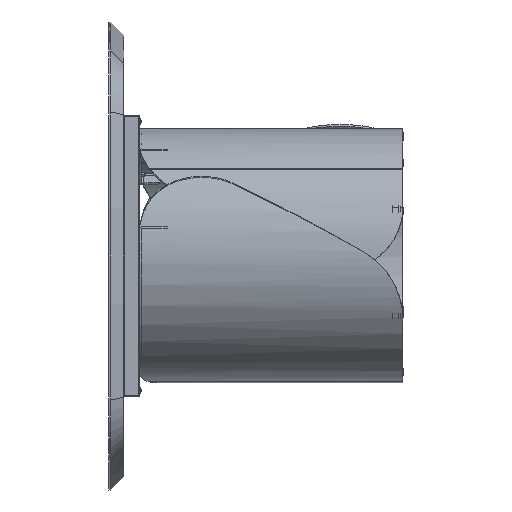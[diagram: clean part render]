
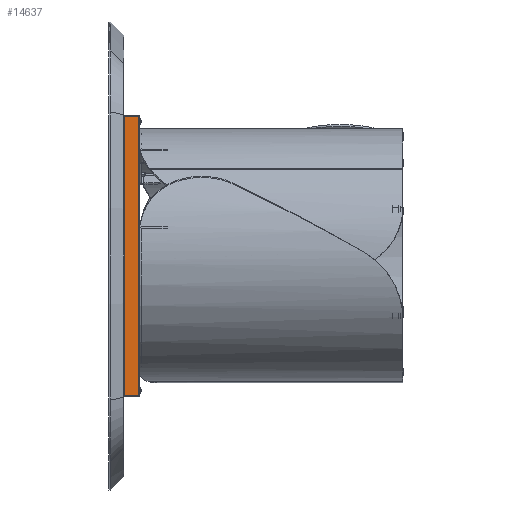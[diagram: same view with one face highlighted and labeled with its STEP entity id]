
A CAD part, left-side view. The second image highlights one B-rep face of the part: STEP entity #14637.
In plain terms, the highlighted planar face has unit normal (-1, 0, 0).
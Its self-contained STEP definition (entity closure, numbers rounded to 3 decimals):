
#2318 = ORIENTED_EDGE ( 'NONE', *, *, #4051, .T. ) ;
#3085 = DIRECTION ( 'NONE',  ( 0., 0., -1. ) ) ;
#3208 = VERTEX_POINT ( 'NONE', #19415 ) ;
#4051 = EDGE_CURVE ( 'NONE', #17836, #7736, #8920, .T. ) ;
#4245 = EDGE_LOOP ( 'NONE', ( #15834, #22027, #2318, #21905 ) ) ;
#5266 = CARTESIAN_POINT ( 'NONE',  ( -805., 38., -360. ) ) ;
#5475 = CARTESIAN_POINT ( 'NONE',  ( -805., 40., 358. ) ) ;
#6840 = VECTOR ( 'NONE', #7461, 1000. ) ;
#7109 = CARTESIAN_POINT ( 'NONE',  ( -805., 40., 360. ) ) ;
#7328 = DIRECTION ( 'NONE',  ( 0., 0., 1. ) ) ;
#7442 = VECTOR ( 'NONE', #7328, 1000. ) ;
#7461 = DIRECTION ( 'NONE',  ( 0., -1., 0. ) ) ;
#7736 = VERTEX_POINT ( 'NONE', #13298 ) ;
#8901 = DIRECTION ( 'NONE',  ( 0., 1., 0. ) ) ;
#8920 = LINE ( 'NONE', #23952, #7442 ) ;
#9170 = DIRECTION ( 'NONE',  ( 0., 0., -1. ) ) ;
#11255 = EDGE_CURVE ( 'NONE', #3208, #23115, #16157, .T. ) ;
#11475 = CARTESIAN_POINT ( 'NONE',  ( -805., 40., -358. ) ) ;
#11846 = EDGE_CURVE ( 'NONE', #23115, #17836, #19690, .T. ) ;
#12365 = CARTESIAN_POINT ( 'NONE',  ( -805., 38., -358. ) ) ;
#12709 = FACE_OUTER_BOUND ( 'NONE', #4245, .T. ) ;
#13298 = CARTESIAN_POINT ( 'NONE',  ( -805., 2., 358. ) ) ;
#14553 = PLANE ( 'NONE',  #20192 ) ;
#14637 = ADVANCED_FACE ( 'NONE', ( #12709 ), #14553, .F. ) ;
#15834 = ORIENTED_EDGE ( 'NONE', *, *, #11255, .T. ) ;
#16157 = LINE ( 'NONE', #5266, #21950 ) ;
#17836 = VERTEX_POINT ( 'NONE', #18306 ) ;
#18306 = CARTESIAN_POINT ( 'NONE',  ( -805., 2., -358. ) ) ;
#19415 = CARTESIAN_POINT ( 'NONE',  ( -805., 38., 358. ) ) ;
#19690 = LINE ( 'NONE', #11475, #6840 ) ;
#20192 = AXIS2_PLACEMENT_3D ( 'NONE', #7109, #22001, #9170 ) ;
#21736 = LINE ( 'NONE', #5475, #21929 ) ;
#21905 = ORIENTED_EDGE ( 'NONE', *, *, #22176, .T. ) ;
#21929 = VECTOR ( 'NONE', #8901, 1000. ) ;
#21950 = VECTOR ( 'NONE', #3085, 1000. ) ;
#22001 = DIRECTION ( 'NONE',  ( 1., 0., 0. ) ) ;
#22027 = ORIENTED_EDGE ( 'NONE', *, *, #11846, .T. ) ;
#22176 = EDGE_CURVE ( 'NONE', #7736, #3208, #21736, .T. ) ;
#23115 = VERTEX_POINT ( 'NONE', #12365 ) ;
#23952 = CARTESIAN_POINT ( 'NONE',  ( -805., 2., 360. ) ) ;
